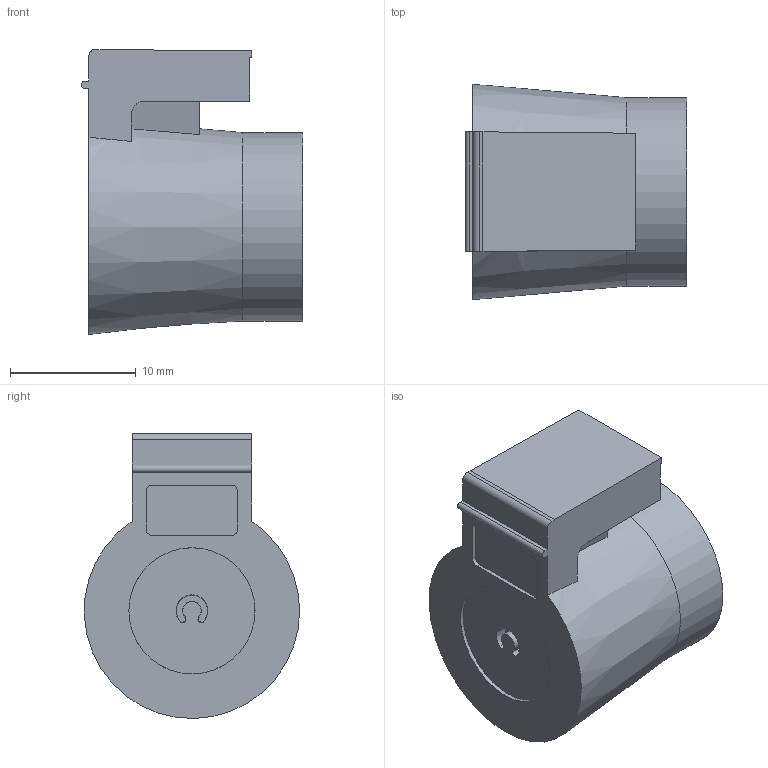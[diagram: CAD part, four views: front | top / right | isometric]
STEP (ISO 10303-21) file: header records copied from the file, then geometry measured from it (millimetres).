
FILE_DESCRIPTION(/* description */ (''),/* implementation_level */ '2;1');
FILE_NAME(/* name */ 'C:\SapWorkDir\Inventor\MP1\ConvertTempPath\87_12_121520_00_B_220624_BTK-X-Vario 3-8.stp',/* time_stamp */ '2022-06-24T13:41:00+02:00',/* author */ ('BAUER'),/* organization */ (''),/* preprocessor_version */ 'ST-DEVELOPER v16.13',/* originating_system */ 'Autodesk Inventor 2018',/* authorisation */ '');
FILE_SCHEMA (('AUTOMOTIVE_DESIGN { 1 0 10303 214 3 1 1 }'));
Length unit declared in the file: millimetre
Products named in the file (1): 121520
Bounding box: 17.6 x 17.13 x 22.67 mm (x, y, z)
Volume: 2526.5 mm3; surface area: 2169.6 mm2
Topology: 1 solids, 1 shells, 107 faces, 284 edges, 190 vertices
Faces by surface type: plane 78, bspline 14, cylinder 10, cone 5
Full cylindrical faces by diameter (mm): 15 x1
Entity records: 3502 total; most frequent: CARTESIAN_POINT 858, ORIENTED_EDGE 556, DIRECTION 486, EDGE_CURVE 278, LINE 206, VECTOR 206, VERTEX_POINT 188, AXIS2_PLACEMENT_3D 140
